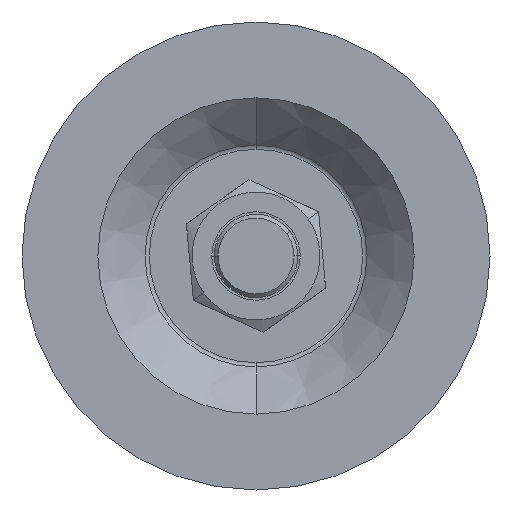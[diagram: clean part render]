
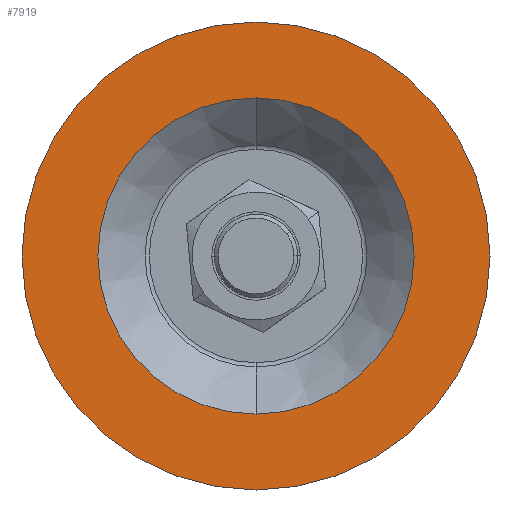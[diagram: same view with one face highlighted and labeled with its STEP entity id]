
A CAD part, front view. The second image highlights one B-rep face of the part: STEP entity #7919.
In plain terms, the highlighted planar face has unit normal (0, -1, 0).
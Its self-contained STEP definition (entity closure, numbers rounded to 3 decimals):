
#134 = VERTEX_POINT ( 'NONE', #251 ) ;
#251 = CARTESIAN_POINT ( 'NONE',  ( 0., -2.4, -37. ) ) ;
#841 = AXIS2_PLACEMENT_3D ( 'NONE', #4290, #4263, #3653 ) ;
#850 = FACE_OUTER_BOUND ( 'NONE', #7047, .T. ) ;
#883 = CARTESIAN_POINT ( 'NONE',  ( 0., -2.4, 0. ) ) ;
#1197 = AXIS2_PLACEMENT_3D ( 'NONE', #6145, #2248, #7389 ) ;
#1516 = DIRECTION ( 'NONE',  ( 0., -1., 0. ) ) ;
#1980 = EDGE_CURVE ( 'NONE', #2446, #134, #6775, .T. ) ;
#2139 = EDGE_CURVE ( 'NONE', #3927, #3095, #5945, .T. ) ;
#2248 = DIRECTION ( 'NONE',  ( 0., -1., 0. ) ) ;
#2296 = EDGE_LOOP ( 'NONE', ( #2586, #4300 ) ) ;
#2315 = ORIENTED_EDGE ( 'NONE', *, *, #1980, .T. ) ;
#2446 = VERTEX_POINT ( 'NONE', #5726 ) ;
#2496 = DIRECTION ( 'NONE',  ( 0., -1., 0. ) ) ;
#2586 = ORIENTED_EDGE ( 'NONE', *, *, #2139, .F. ) ;
#3095 = VERTEX_POINT ( 'NONE', #3164 ) ;
#3164 = CARTESIAN_POINT ( 'NONE',  ( 0., -2.4, 25. ) ) ;
#3208 = CIRCLE ( 'NONE', #5081, 37. ) ;
#3653 = DIRECTION ( 'NONE',  ( 0., 0., -1. ) ) ;
#3667 = AXIS2_PLACEMENT_3D ( 'NONE', #883, #1516, #5966 ) ;
#3762 = CARTESIAN_POINT ( 'NONE',  ( 37., -2.4, 0. ) ) ;
#3927 = VERTEX_POINT ( 'NONE', #7155 ) ;
#4263 = DIRECTION ( 'NONE',  ( 0., -1., 0. ) ) ;
#4290 = CARTESIAN_POINT ( 'NONE',  ( 0., -2.4, 0. ) ) ;
#4300 = ORIENTED_EDGE ( 'NONE', *, *, #6415, .F. ) ;
#4883 = FACE_BOUND ( 'NONE', #2296, .T. ) ;
#5081 = AXIS2_PLACEMENT_3D ( 'NONE', #6375, #2496, #6442 ) ;
#5225 = AXIS2_PLACEMENT_3D ( 'NONE', #3762, #6950, #7547 ) ;
#5252 = EDGE_CURVE ( 'NONE', #134, #2446, #3208, .T. ) ;
#5726 = CARTESIAN_POINT ( 'NONE',  ( 0., -2.4, 37. ) ) ;
#5753 = PLANE ( 'NONE',  #5225 ) ;
#5945 = CIRCLE ( 'NONE', #841, 25. ) ;
#5966 = DIRECTION ( 'NONE',  ( 0., 0., -1. ) ) ;
#6145 = CARTESIAN_POINT ( 'NONE',  ( 0., -2.4, 0. ) ) ;
#6375 = CARTESIAN_POINT ( 'NONE',  ( 0., -2.4, 0. ) ) ;
#6415 = EDGE_CURVE ( 'NONE', #3095, #3927, #7310, .T. ) ;
#6442 = DIRECTION ( 'NONE',  ( 0., 0., -1. ) ) ;
#6775 = CIRCLE ( 'NONE', #3667, 37. ) ;
#6950 = DIRECTION ( 'NONE',  ( 0., -1., 0. ) ) ;
#7047 = EDGE_LOOP ( 'NONE', ( #7304, #2315 ) ) ;
#7155 = CARTESIAN_POINT ( 'NONE',  ( 0., -2.4, -25. ) ) ;
#7304 = ORIENTED_EDGE ( 'NONE', *, *, #5252, .T. ) ;
#7310 = CIRCLE ( 'NONE', #1197, 25. ) ;
#7389 = DIRECTION ( 'NONE',  ( 0., 0., -1. ) ) ;
#7547 = DIRECTION ( 'NONE',  ( 0., 0., -1. ) ) ;
#7919 = ADVANCED_FACE ( 'NONE', ( #850, #4883 ), #5753, .T. ) ;
